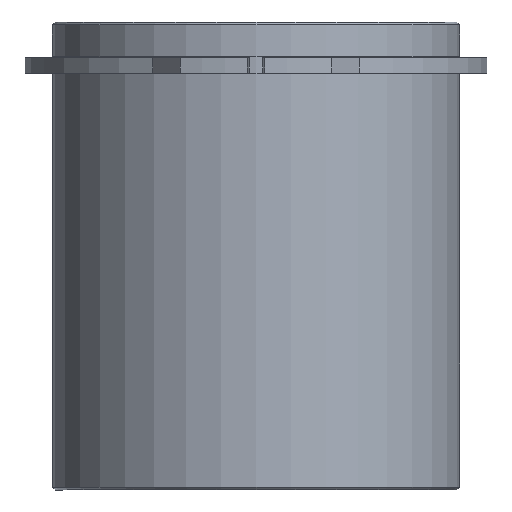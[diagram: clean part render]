
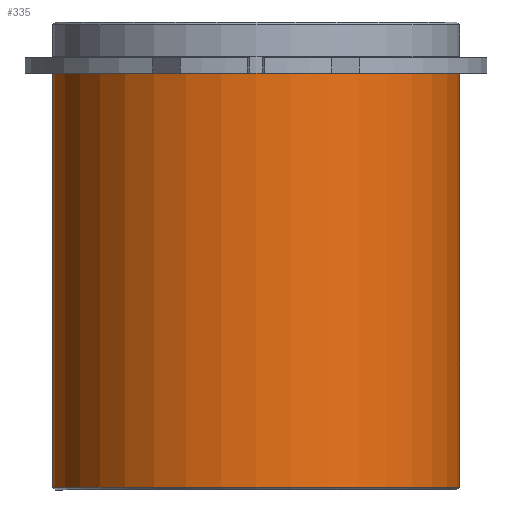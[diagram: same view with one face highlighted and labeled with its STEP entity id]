
A CAD part, front view. The second image highlights one B-rep face of the part: STEP entity #335.
In plain terms, the highlighted cylindrical face has radius 22.625 mm (diameter 45.25 mm), a partial arc.
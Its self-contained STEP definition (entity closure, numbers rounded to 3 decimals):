
#294=CARTESIAN_POINT('',(0.0,0.,-23.0));
#295=DIRECTION('',(0.0,0.,1.0));
#296=DIRECTION('',(1.0,0.0,0.0));
#297=AXIS2_PLACEMENT_3D('',#294,#295,#296);
#298=CYLINDRICAL_SURFACE('',#297,22.625);
#299=CARTESIAN_POINT('',(22.625,0.0,0.0));
#300=VERTEX_POINT('',#299);
#301=CARTESIAN_POINT('',(22.625,0.,-46.0));
#302=VERTEX_POINT('',#301);
#303=CARTESIAN_POINT('',(22.625,0.0,0.0));
#304=DIRECTION('',(0.0,0.0,-1.0));
#305=VECTOR('',#304,46.0);
#306=LINE('',#303,#305);
#307=EDGE_CURVE('',#300,#302,#306,.T.);
#308=ORIENTED_EDGE('',*,*,#307,.F.);
#309=CARTESIAN_POINT('',(-22.625,0.,0.0));
#310=VERTEX_POINT('',#309);
#311=CARTESIAN_POINT('',(0.0,0.0,0.0));
#312=DIRECTION('',(0.0,0.0,1.0));
#313=DIRECTION('',(1.0,0.0,0.0));
#314=AXIS2_PLACEMENT_3D('',#311,#312,#313);
#315=CIRCLE('',#314,22.625);
#316=EDGE_CURVE('',#310,#300,#315,.T.);
#317=ORIENTED_EDGE('',*,*,#316,.F.);
#318=CARTESIAN_POINT('',(-22.625,0.,-46.));
#319=VERTEX_POINT('',#318);
#320=CARTESIAN_POINT('',(-22.625,0.,0.0));
#321=DIRECTION('',(0.0,0.0,-1.0));
#322=VECTOR('',#321,46.);
#323=LINE('',#320,#322);
#324=EDGE_CURVE('',#310,#319,#323,.T.);
#325=ORIENTED_EDGE('',*,*,#324,.T.);
#326=CARTESIAN_POINT('',(0.0,0.,-46.0));
#327=DIRECTION('',(0.0,0.0,1.0));
#328=DIRECTION('',(1.0,0.0,0.0));
#329=AXIS2_PLACEMENT_3D('',#326,#327,#328);
#330=CIRCLE('',#329,22.625);
#331=EDGE_CURVE('',#319,#302,#330,.T.);
#332=ORIENTED_EDGE('',*,*,#331,.T.);
#333=EDGE_LOOP('',(#308,#317,#325,#332));
#334=FACE_OUTER_BOUND('',#333,.T.);
#335=ADVANCED_FACE('',(#334),#298,.T.);
